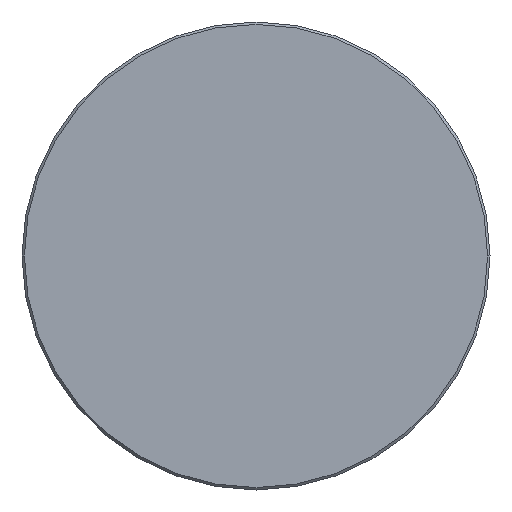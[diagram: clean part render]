
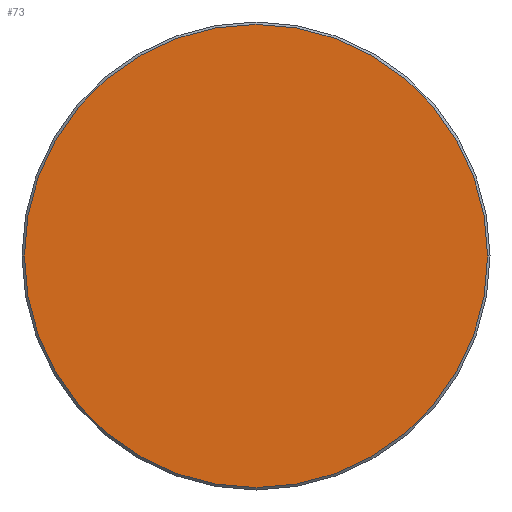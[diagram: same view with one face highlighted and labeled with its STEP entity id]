
A CAD part, left-side view. The second image highlights one B-rep face of the part: STEP entity #73.
In plain terms, the highlighted planar face has unit normal (-1, 0, 0).
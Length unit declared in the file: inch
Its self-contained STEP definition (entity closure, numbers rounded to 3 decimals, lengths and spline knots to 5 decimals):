
#4 = DIRECTION ( 'NONE',  ( -1., 0., 0. ) ) ;
#13 = CIRCLE ( 'NONE', #94, 0.38663 ) ;
#27 = DIRECTION ( 'NONE',  ( -1., 0., 0. ) ) ;
#30 = ORIENTED_EDGE ( 'NONE', *, *, #38, .T. ) ;
#38 = EDGE_CURVE ( 'NONE', #298, #57, #13, .T. ) ;
#57 = VERTEX_POINT ( 'NONE', #216 ) ;
#58 = AXIS2_PLACEMENT_3D ( 'NONE', #217, #358, #352 ) ;
#73 = ADVANCED_FACE ( 'NONE', ( #366 ), #152, .T. ) ;
#75 = CARTESIAN_POINT ( 'NONE',  ( 0., 0.38663, 0. ) ) ;
#94 = AXIS2_PLACEMENT_3D ( 'NONE', #237, #27, #296 ) ;
#152 = PLANE ( 'NONE',  #58 ) ;
#216 = CARTESIAN_POINT ( 'NONE',  ( 0., -0.38663, 0. ) ) ;
#217 = CARTESIAN_POINT ( 'NONE',  ( 0., 0., 0. ) ) ;
#229 = CIRCLE ( 'NONE', #233, 0.38663 ) ;
#232 = EDGE_LOOP ( 'NONE', ( #30, #294 ) ) ;
#233 = AXIS2_PLACEMENT_3D ( 'NONE', #329, #4, #245 ) ;
#236 = EDGE_CURVE ( 'NONE', #57, #298, #229, .T. ) ;
#237 = CARTESIAN_POINT ( 'NONE',  ( 0., 0., 0. ) ) ;
#245 = DIRECTION ( 'NONE',  ( 0., -1., 0. ) ) ;
#294 = ORIENTED_EDGE ( 'NONE', *, *, #236, .T. ) ;
#296 = DIRECTION ( 'NONE',  ( 0., -1., 0. ) ) ;
#298 = VERTEX_POINT ( 'NONE', #75 ) ;
#329 = CARTESIAN_POINT ( 'NONE',  ( 0., 0., 0. ) ) ;
#352 = DIRECTION ( 'NONE',  ( 0., -1., 0. ) ) ;
#358 = DIRECTION ( 'NONE',  ( -1., 0., 0. ) ) ;
#366 = FACE_OUTER_BOUND ( 'NONE', #232, .T. ) ;
